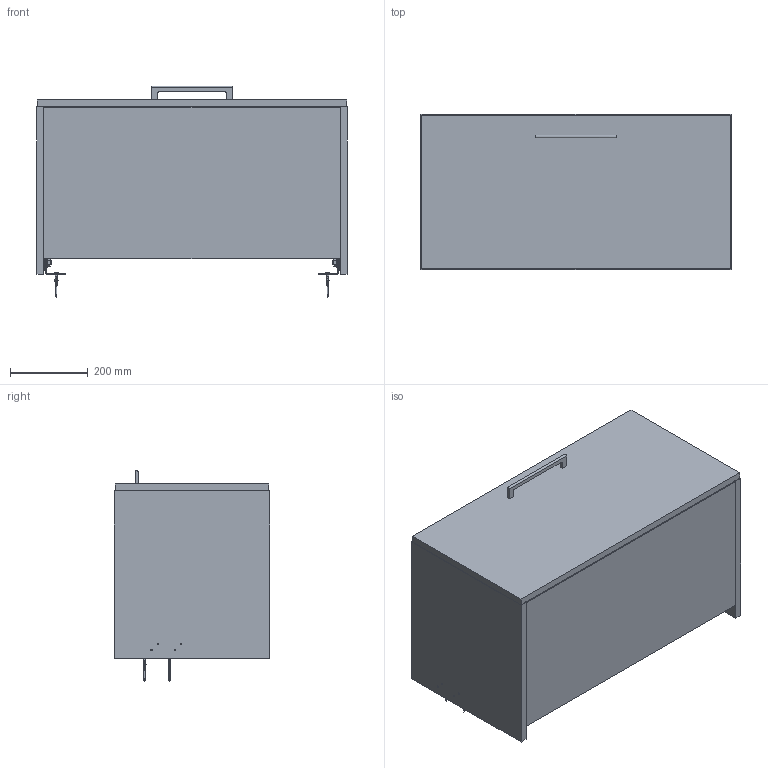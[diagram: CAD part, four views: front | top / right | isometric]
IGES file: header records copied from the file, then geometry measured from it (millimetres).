
Global section: file name: 3D Dosyası,; native system: Autodesk Inventor 2024; preprocessor: unknown; author: pc11; date: 20250709.164006; units: millimetre
Bounding box: 800 x 400 x 544.85 mm (x, y, z)
Volume: 22484169.5 mm3; surface area: 3663463.8 mm2
Topology: 44 solids, 45 shells, 3432 faces, 8639 edges, 5209 vertices
Faces by surface type: bspline 3432
